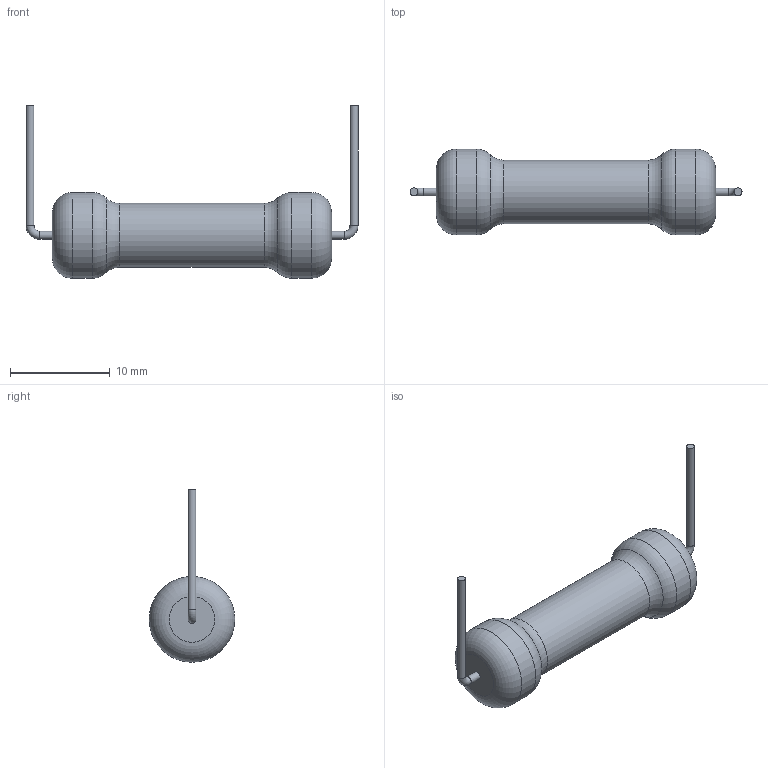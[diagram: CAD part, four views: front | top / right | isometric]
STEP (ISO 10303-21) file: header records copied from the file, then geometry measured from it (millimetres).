
FILE_DESCRIPTION(('STEP AP203'), '1');
FILE_NAME('C2-33苂-1', '', ('UNSPECIFIED'), ('UNSPECIFIED'), 'ASCON STEP Converter 1.6', 'ASCON Math Kernel', '');
FILE_SCHEMA(('CONFIG_CONTROL_DESIGN'));
Length unit declared in the file: millimetre
Bounding box: 33.3 x 8.6 x 17.3 mm (x, y, z)
Volume: 1150.5 mm3; surface area: 791.4 mm2
Topology: 1 solids, 1 shells, 19 faces, 33 edges, 18 vertices
Faces by surface type: torus 8, cylinder 7, plane 4
Full cylindrical faces by diameter (mm): 0.8 x4, 6.4 x1, 8.6 x2
Entity records: 570 total; most frequent: DIRECTION 76, CARTESIAN_POINT 56, AXIS2_PLACEMENT_3D 38, EDGE_LOOP 36, ORIENTED_EDGE 36, FACE_OUTER_BOUND 30, COLOUR_RGB 20, FILL_AREA_STYLE_COLOUR 20
